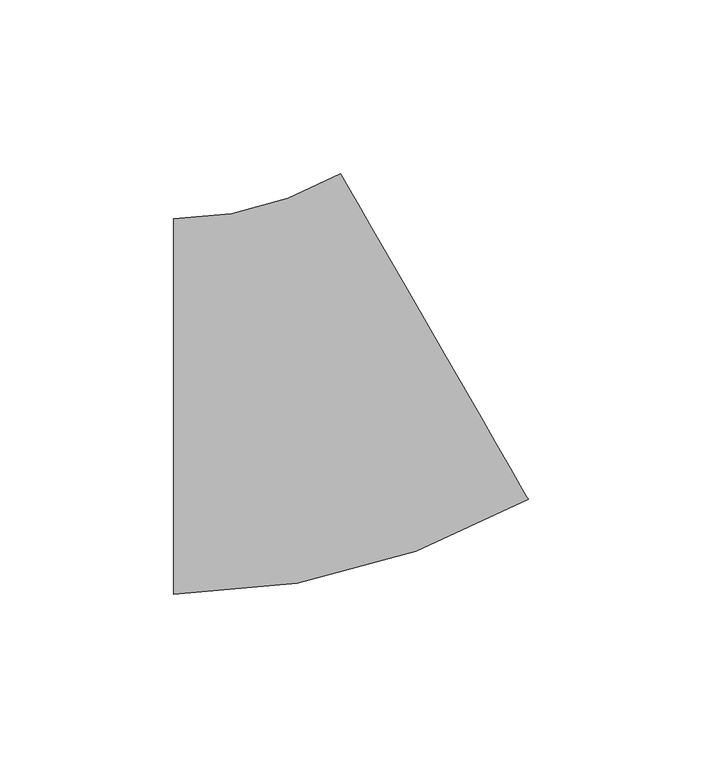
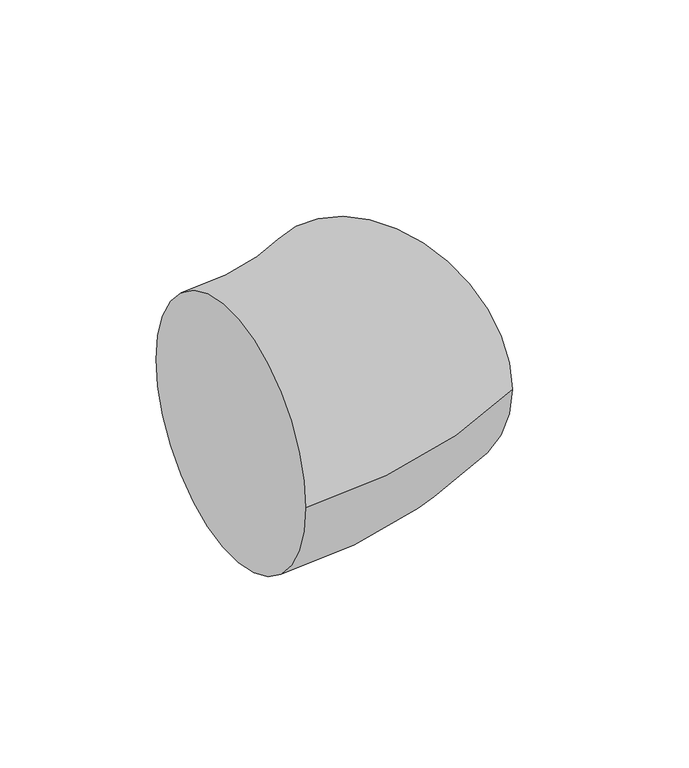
"""IFC4 building model written with IfcOpenShell, lengths in millimetres: pipe fitting geometry, ADSK_ДетальСтальнаяСварная_Отвод_ГОСТ17375-2001 : Исполнение 2."""

from ifc_helpers import new_model, si_unit, point, frame, origin, place, context, project, spatial, circle_curve, ellipse_curve, trimmed, source, transform, mapped, element, save
from ifc_brep_helpers import plane_surface, revolved_surface, advanced_brep


def pipe_fitting_53e1e967(model_context):
    return source(origin(), model_context, "Body", "AdvancedBrep", [
        advanced_brep(
        [(-40.1923789, -54.0, 0.0), (-40.1923789, 54.0, 0.0), (61.8076211, -26.6691824, 0.0), (7.8076211, 66.8615612, 0.0)],
        [
            (0, 1, circle_curve(frame((-40.1923789, 0.0, 0.0), z_axis=(-1.0, 0.0, 0.0), x_axis=(0.0, 1.0, 0.0)), 54.0)),
            (1, 0, circle_curve(frame((-40.1923789, 0.0, 0.0), z_axis=(-1.0, 0.0, 0.0), x_axis=(0.0, 1.0, 0.0)), 54.0)),
            (2, 3, circle_curve(frame((34.8076211, 20.0961894, 0.0), z_axis=(0.8660254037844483, 0.4999999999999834, 0.0), x_axis=(-0.4999999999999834, 0.8660254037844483, 0.0)), 54.0)),
            (3, 2, circle_curve(frame((34.8076211, 20.0961894, 0.0), z_axis=(0.8660254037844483, 0.4999999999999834, 0.0), x_axis=(-0.4999999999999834, 0.8660254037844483, 0.0)), 54.0)),
            (3, 1, circle_curve(frame((-40.1923789, 150.0, 0.0), z_axis=(0.0, 0.0, -1.0), x_axis=(0.0, -1.0, 0.0)), 96.0)),
            (0, 2, circle_curve(frame((-40.1923789, 150.0, 0.0), z_axis=(0.0, 0.0, 1.0), x_axis=(0.0, -1.0, 0.0)), 204.0)),
        ],
        [
            plane_surface(frame((-40.1923789, 0.0, 0.0), z_axis=(-1.0, 0.0, 0.0), x_axis=(0.0, 0.0, 1.0))),
            plane_surface(frame((34.8076211, 20.0961894, 0.0), z_axis=(0.8660254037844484, 0.49999999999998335, 0.0), x_axis=(0.0, 0.0, 1.0))),
            revolved_surface(trimmed(ellipse_curve(frame((-40.1923789, 0.0, 0.0), z_axis=(-1.0, 0.0, 0.0), x_axis=(0.0, 1.0, 0.0)), 54.0, 54.0), [point((-40.1923789, -54.0, 0.0))], [point((-40.1923789, 54.0, 0.0))], True, "CARTESIAN"), (-40.1923789, 150.0, 0.0), (0.0, 0.0, 1.0)),
            revolved_surface(trimmed(ellipse_curve(frame((-40.1923789, 0.0, 0.0), z_axis=(-1.0, 0.0, 0.0), x_axis=(0.0, 1.0, 0.0)), 54.0, 54.0), [point((-40.1923789, 54.0, 0.0))], [point((-40.1923789, -54.0, 0.0))], True, "CARTESIAN"), (-40.1923789, 150.0, 0.0), (0.0, 0.0, 1.0)),
        ],
        [
            (0, [[1, 2]]),
            (1, [[3, 4]]),
            (2, [[5, -1, 6, -4]]),
            (3, [[-6, -2, -5, -3]]),
        ],
    ),
    ])


if __name__ == "__main__":
    model = new_model("IFC4")
    model_context = context("Model", 3, world=origin())
    ifc_project = project(units=[si_unit("LENGTHUNIT", "METRE", prefix="MILLI")], contexts=[model_context])
    site = spatial("IfcSite", under=ifc_project)
    building = spatial("IfcBuilding", under=site)
    placement = place(None, origin())
    pipe_fitting_shape = pipe_fitting_53e1e967(model_context)
    element("IfcPipeFitting", 1, ObjectType="ADSK_ДетальСтальнаяСварная_Отвод_ГОСТ17375-2001 : Исполнение 2", at=placement, inside=building, context=model_context, shape_type="MappedRepresentation", body=[
        mapped(pipe_fitting_shape, transform((0.0, 0.0, 0.0), x_axis=(1.0, 0.0, 0.0), y_axis=(0.0, 1.0, 0.0), z_axis=(0.0, 0.0, 1.0))),
    ])
    save(model, "model.ifc")
